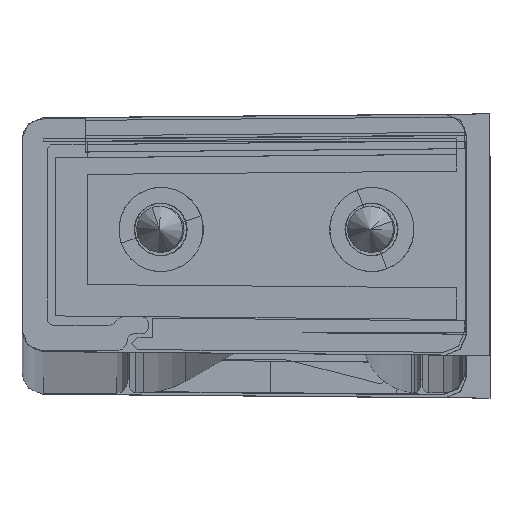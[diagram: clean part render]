
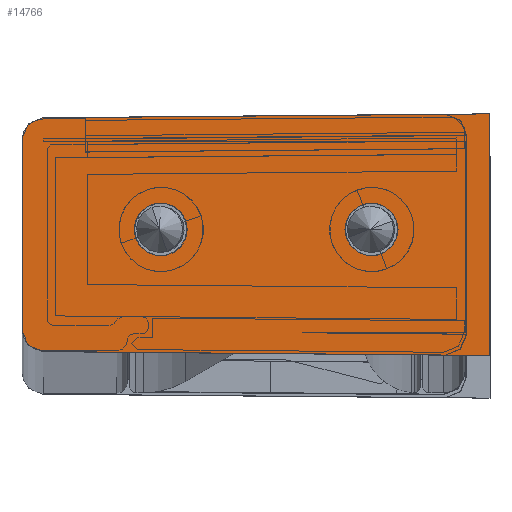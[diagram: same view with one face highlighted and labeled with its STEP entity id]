
A CAD part, top view. The second image highlights one B-rep face of the part: STEP entity #14766.
In plain terms, the highlighted planar face has unit normal (-0.009, 0, 1) as drawn and (0.009, 0, -1) by its records, which use the part's own axes.
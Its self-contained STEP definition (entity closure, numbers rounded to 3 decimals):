
#1112 = EDGE_CURVE ( 'NONE', #30458, #26067, #20147, .T. ) ;
#1513 = CARTESIAN_POINT ( 'NONE',  ( 19.609, 9.395, -2.995 ) ) ;
#2547 = LINE ( 'NONE', #31235, #21612 ) ;
#3158 = CARTESIAN_POINT ( 'NONE',  ( 19.609, -1.695, -2.995 ) ) ;
#4584 = FACE_OUTER_BOUND ( 'NONE', #32226, .T. ) ;
#4593 = VERTEX_POINT ( 'NONE', #15187 ) ;
#5757 = CARTESIAN_POINT ( 'NONE',  ( 19.609, 9.395, -2.995 ) ) ;
#6043 = VECTOR ( 'NONE', #22910, 1000. ) ;
#6110 = CARTESIAN_POINT ( 'NONE',  ( 20.6, -0.695, -2.986 ) ) ;
#6318 = CARTESIAN_POINT ( 'NONE',  ( 20.19, -1.69, -2.99 ) ) ;
#10215 = EDGE_CURVE ( 'NONE', #28739, #23772, #2547, .T. ) ;
#10467 = VERTEX_POINT ( 'NONE', #33887 ) ;
#10542 = DIRECTION ( 'NONE',  ( 1., 0., 0.009 ) ) ;
#11376 = EDGE_LOOP ( 'NONE', ( #41206, #26908 ) ) ;
#11672 = DIRECTION ( 'NONE',  ( 1., 0., 0.009 ) ) ;
#12291 = ORIENTED_EDGE ( 'NONE', *, *, #15794, .T. ) ;
#12825 = CARTESIAN_POINT ( 'NONE',  ( 20.6, -1.276, -2.986 ) ) ;
#13282 = ORIENTED_EDGE ( 'NONE', *, *, #17102, .T. ) ;
#13674 = VECTOR ( 'NONE', #29268, 1000. ) ;
#14024 = CARTESIAN_POINT ( 'NONE',  ( 20.6, -0.695, -2.986 ) ) ;
#14351 = ORIENTED_EDGE ( 'NONE', *, *, #41172, .T. ) ;
#14612 = EDGE_CURVE ( 'NONE', #10467, #28925, #39189, .T. ) ;
#14616 = CARTESIAN_POINT ( 'NONE',  ( 4.033, 4.1, -3.131 ) ) ;
#14766 = ADVANCED_FACE ( 'NONE', ( #37460, #23956, #4584 ), #33659, .T. ) ;
#15187 = CARTESIAN_POINT ( 'NONE',  ( 15.283, 4.1, -3.032 ) ) ;
#15794 = EDGE_CURVE ( 'NONE', #21922, #27351, #41752, .T. ) ;
#16197 = CARTESIAN_POINT ( 'NONE',  ( 19.126, -1.699, -2.999 ) ) ;
#16398 = DIRECTION ( 'NONE',  ( -0.009, 0., 1. ) ) ;
#17102 = EDGE_CURVE ( 'NONE', #28925, #21922, #35608, .T. ) ;
#17292 = DIRECTION ( 'NONE',  ( -0.009, 0., 1. ) ) ;
#18604 = CARTESIAN_POINT ( 'NONE',  ( 20.6, 8.395, -2.986 ) ) ;
#20147 = CIRCLE ( 'NONE', #30233, 1.25 ) ;
#20834 = AXIS2_PLACEMENT_3D ( 'NONE', #33874, #24378, #34280 ) ;
#21323 = CARTESIAN_POINT ( 'NONE',  ( -1.6, -1.7, -3.18 ) ) ;
#21457 = ORIENTED_EDGE ( 'NONE', *, *, #10215, .T. ) ;
#21553 = CARTESIAN_POINT ( 'NONE',  ( 20.6, 8.976, -2.986 ) ) ;
#21612 = VECTOR ( 'NONE', #28062, 1000. ) ;
#21922 = VERTEX_POINT ( 'NONE', #32410 ) ;
#22910 = DIRECTION ( 'NONE',  ( 0., -1., 0. ) ) ;
#23497 = EDGE_CURVE ( 'NONE', #26067, #30458, #30022, .T. ) ;
#23705 = CIRCLE ( 'NONE', #32461, 1.25 ) ;
#23772 = VERTEX_POINT ( 'NONE', #1513 ) ;
#23890 = CARTESIAN_POINT ( 'NONE',  ( 2.783, 4.1, -3.142 ) ) ;
#23956 = FACE_BOUND ( 'NONE', #11376, .T. ) ;
#24378 = DIRECTION ( 'NONE',  ( 0.009, 0., -1. ) ) ;
#25713 = CARTESIAN_POINT ( 'NONE',  ( 5.283, 4.1, -3.12 ) ) ;
#25898 = CARTESIAN_POINT ( 'NONE',  ( 4.033, 4.1, -3.131 ) ) ;
#26067 = VERTEX_POINT ( 'NONE', #25713 ) ;
#26079 = EDGE_LOOP ( 'NONE', ( #34188, #30407 ) ) ;
#26896 = EDGE_CURVE ( 'NONE', #39664, #4593, #23705, .T. ) ;
#26908 = ORIENTED_EDGE ( 'NONE', *, *, #1112, .T. ) ;
#27031 = ORIENTED_EDGE ( 'NONE', *, *, #14612, .T. ) ;
#27351 = VERTEX_POINT ( 'NONE', #33020 ) ;
#27490 = DIRECTION ( 'NONE',  ( -0.009, 0., 1. ) ) ;
#27724 = VECTOR ( 'NONE', #41182, 1000. ) ;
#28062 = DIRECTION ( 'NONE',  ( 1., -0.009, 0.009 ) ) ;
#28461 = DIRECTION ( 'NONE',  ( 1., 0., 0.009 ) ) ;
#28739 = VERTEX_POINT ( 'NONE', #37913 ) ;
#28925 = VERTEX_POINT ( 'NONE', #14024 ) ;
#29246 = CARTESIAN_POINT ( 'NONE',  ( 20.6, 9.4, -2.986 ) ) ;
#29254 = DIRECTION ( 'NONE',  ( 1., 0., 0.009 ) ) ;
#29268 = DIRECTION ( 'NONE',  ( -1., -0.009, -0.009 ) ) ;
#29606 = EDGE_CURVE ( 'NONE', #4593, #39664, #35300, .T. ) ;
#30022 = CIRCLE ( 'NONE', #35409, 1.25 ) ;
#30233 = AXIS2_PLACEMENT_3D ( 'NONE', #25898, #16398, #29254 ) ;
#30370 = CARTESIAN_POINT ( 'NONE',  ( 14.033, 4.1, -3.043 ) ) ;
#30407 = ORIENTED_EDGE ( 'NONE', *, *, #26896, .T. ) ;
#30458 = VERTEX_POINT ( 'NONE', #23890 ) ;
#31235 = CARTESIAN_POINT ( 'NONE',  ( 19.126, 9.399, -2.999 ) ) ;
#31871 = ORIENTED_EDGE ( 'NONE', *, *, #38797, .T. ) ;
#32226 = EDGE_LOOP ( 'NONE', ( #27031, #13282, #12291, #31871, #21457, #14351 ) ) ;
#32410 = CARTESIAN_POINT ( 'NONE',  ( 19.609, -1.695, -2.995 ) ) ;
#32461 = AXIS2_PLACEMENT_3D ( 'NONE', #34780, #40921, #28461 ) ;
#33020 = CARTESIAN_POINT ( 'NONE',  ( -1.6, -1.88, -3.18 ) ) ;
#33659 = PLANE ( 'NONE',  #20834 ) ;
#33874 = CARTESIAN_POINT ( 'NONE',  ( 19., 0., -3. ) ) ;
#33887 = CARTESIAN_POINT ( 'NONE',  ( 20.6, 8.395, -2.986 ) ) ;
#34188 = ORIENTED_EDGE ( 'NONE', *, *, #29606, .T. ) ;
#34280 = DIRECTION ( 'NONE',  ( -1., 0., -0.009 ) ) ;
#34780 = CARTESIAN_POINT ( 'NONE',  ( 14.033, 4.1, -3.043 ) ) ;
#35300 = CIRCLE ( 'NONE', #35973, 1.25 ) ;
#35409 = AXIS2_PLACEMENT_3D ( 'NONE', #14616, #27490, #11672 ) ;
#35608 =( BOUNDED_CURVE ( )  B_SPLINE_CURVE ( 3, ( #6110, #12825, #6318, #3158 ),
 .UNSPECIFIED., .F., .F. ) 
 B_SPLINE_CURVE_WITH_KNOTS ( ( 4, 4 ),
 ( 3.142, 4.704 ),
 .UNSPECIFIED. ) 
 CURVE ( )  GEOMETRIC_REPRESENTATION_ITEM ( )  RATIONAL_B_SPLINE_CURVE ( ( 1., 0.807, 0.807, 1. ) ) 
 REPRESENTATION_ITEM ( '' )  );
#35973 = AXIS2_PLACEMENT_3D ( 'NONE', #30370, #17292, #10542 ) ;
#37349 =( BOUNDED_CURVE ( )  B_SPLINE_CURVE ( 3, ( #5757, #41417, #21553, #18604 ),
 .UNSPECIFIED., .F., .F. ) 
 B_SPLINE_CURVE_WITH_KNOTS ( ( 4, 4 ),
 ( 1.58, 3.142 ),
 .UNSPECIFIED. ) 
 CURVE ( )  GEOMETRIC_REPRESENTATION_ITEM ( )  RATIONAL_B_SPLINE_CURVE ( ( 1., 0.807, 0.807, 1. ) ) 
 REPRESENTATION_ITEM ( '' )  );
#37460 = FACE_BOUND ( 'NONE', #26079, .T. ) ;
#37913 = CARTESIAN_POINT ( 'NONE',  ( -1.6, 9.58, -3.18 ) ) ;
#38797 = EDGE_CURVE ( 'NONE', #27351, #28739, #40761, .T. ) ;
#39189 = LINE ( 'NONE', #29246, #6043 ) ;
#39664 = VERTEX_POINT ( 'NONE', #40566 ) ;
#40566 = CARTESIAN_POINT ( 'NONE',  ( 12.783, 4.1, -3.054 ) ) ;
#40761 = LINE ( 'NONE', #21323, #27724 ) ;
#40921 = DIRECTION ( 'NONE',  ( -0.009, 0., 1. ) ) ;
#41172 = EDGE_CURVE ( 'NONE', #23772, #10467, #37349, .T. ) ;
#41182 = DIRECTION ( 'NONE',  ( 0., 1., 0. ) ) ;
#41206 = ORIENTED_EDGE ( 'NONE', *, *, #23497, .T. ) ;
#41417 = CARTESIAN_POINT ( 'NONE',  ( 20.19, 9.39, -2.99 ) ) ;
#41752 = LINE ( 'NONE', #16197, #13674 ) ;
